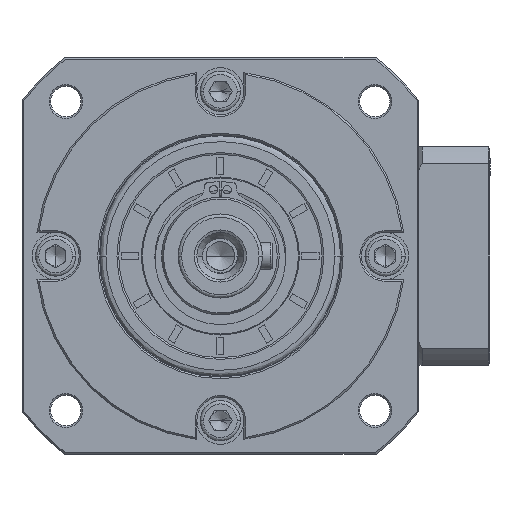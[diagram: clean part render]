
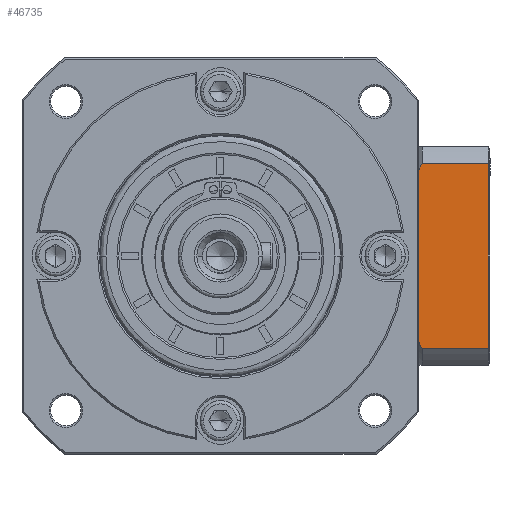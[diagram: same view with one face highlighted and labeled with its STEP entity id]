
A CAD part, left-side view. The second image highlights one B-rep face of the part: STEP entity #46735.
In plain terms, the highlighted planar face has unit normal (-1, 0, 0).
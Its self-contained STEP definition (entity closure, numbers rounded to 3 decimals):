
#159 = CARTESIAN_POINT ( 'NONE',  ( -18.303, -83.897, -95.251 ) ) ;
#456 = CARTESIAN_POINT ( 'NONE',  ( -18.303, -56.697, -135.627 ) ) ;
#694 = VERTEX_POINT ( 'NONE', #456 ) ;
#1664 = ORIENTED_EDGE ( 'NONE', *, *, #8853, .F. ) ;
#4312 = CARTESIAN_POINT ( 'NONE',  ( -18.303, -57.646, -138.184 ) ) ;
#4411 = LINE ( 'NONE', #144741, #111909 ) ;
#6166 = EDGE_CURVE ( 'NONE', #149247, #43673, #142944, .T. ) ;
#8853 = EDGE_CURVE ( 'NONE', #122564, #157267, #9783, .T. ) ;
#9768 = FACE_OUTER_BOUND ( 'NONE', #60372, .T. ) ;
#9783 = LINE ( 'NONE', #16123, #131947 ) ;
#11297 = DIRECTION ( 'NONE',  ( 0., -1., 0. ) ) ;
#16123 = CARTESIAN_POINT ( 'NONE',  ( -18.303, -83.897, -155.137 ) ) ;
#19016 = ORIENTED_EDGE ( 'NONE', *, *, #6166, .F. ) ;
#20881 = CARTESIAN_POINT ( 'NONE',  ( -18.303, -83.897, -150.023 ) ) ;
#21820 = VERTEX_POINT ( 'NONE', #148296 ) ;
#23563 = CARTESIAN_POINT ( 'NONE',  ( -18.303, -42.197, -135.627 ) ) ;
#25190 = ORIENTED_EDGE ( 'NONE', *, *, #46428, .F. ) ;
#30402 = EDGE_CURVE ( 'NONE', #43673, #21820, #45711, .T. ) ;
#34738 = EDGE_CURVE ( 'NONE', #694, #62710, #4411, .T. ) ;
#39700 = CARTESIAN_POINT ( 'NONE',  ( -18.303, -42.197, -109.647 ) ) ;
#41763 = DIRECTION ( 'NONE',  ( 0., 0., 1. ) ) ;
#42264 = DIRECTION ( 'NONE',  ( 0., -1., 0. ) ) ;
#43673 = VERTEX_POINT ( 'NONE', #164945 ) ;
#45711 = B_SPLINE_CURVE_WITH_KNOTS ( 'NONE', 3,
 ( #128550, #158771, #142083, #61387, #155658, #74922 ),
 .UNSPECIFIED., .F., .F.,
 ( 4, 2, 4 ),
 ( 0., 0.008, 0.016 ),
 .UNSPECIFIED. ) ;
#46428 = EDGE_CURVE ( 'NONE', #62710, #149247, #49745, .T. ) ;
#46735 = ADVANCED_FACE ( 'NONE', ( #9768 ), #78733, .F. ) ;
#49745 = LINE ( 'NONE', #149571, #77156 ) ;
#52207 = DIRECTION ( 'NONE',  ( 1., 0., 0. ) ) ;
#57884 = CARTESIAN_POINT ( 'NONE',  ( -18.303, -64.197, -150.023 ) ) ;
#60372 = EDGE_LOOP ( 'NONE', ( #1664, #153961, #131359, #19016, #25190, #115023, #97211, #161599 ) ) ;
#61387 = CARTESIAN_POINT ( 'NONE',  ( -18.303, -61.332, -99.86 ) ) ;
#62710 = VERTEX_POINT ( 'NONE', #23563 ) ;
#65156 = CARTESIAN_POINT ( 'NONE',  ( -18.303, -64.197, -150.023 ) ) ;
#71223 = EDGE_CURVE ( 'NONE', #157267, #140806, #130649, .T. ) ;
#74922 = CARTESIAN_POINT ( 'NONE',  ( -18.303, -64.197, -95.251 ) ) ;
#77156 = VECTOR ( 'NONE', #41763, 1000. ) ;
#78733 = PLANE ( 'NONE',  #139889 ) ;
#84997 = CARTESIAN_POINT ( 'NONE',  ( -18.303, -58.793, -140.636 ) ) ;
#91810 = EDGE_CURVE ( 'NONE', #140806, #694, #149971, .T. ) ;
#97211 = ORIENTED_EDGE ( 'NONE', *, *, #91810, .F. ) ;
#98502 = CARTESIAN_POINT ( 'NONE',  ( -18.303, -56.697, -135.627 ) ) ;
#102207 = EDGE_CURVE ( 'NONE', #21820, #122564, #134369, .T. ) ;
#105552 = CARTESIAN_POINT ( 'NONE',  ( -18.303, -84.397, -95.251 ) ) ;
#110005 = CARTESIAN_POINT ( 'NONE',  ( -18.303, -56.697, -109.647 ) ) ;
#111909 = VECTOR ( 'NONE', #158333, 1000. ) ;
#115023 = ORIENTED_EDGE ( 'NONE', *, *, #34738, .F. ) ;
#122564 = VERTEX_POINT ( 'NONE', #159 ) ;
#123905 = DIRECTION ( 'NONE',  ( 0., 0., -1. ) ) ;
#126419 = VECTOR ( 'NONE', #141799, 1000. ) ;
#128259 = CARTESIAN_POINT ( 'NONE',  ( -18.303, -84.397, -150.023 ) ) ;
#128550 = CARTESIAN_POINT ( 'NONE',  ( -18.303, -56.697, -109.647 ) ) ;
#130649 = LINE ( 'NONE', #128259, #126419 ) ;
#131359 = ORIENTED_EDGE ( 'NONE', *, *, #30402, .F. ) ;
#131947 = VECTOR ( 'NONE', #123905, 1000. ) ;
#132917 = CARTESIAN_POINT ( 'NONE',  ( -18.303, -84.397, -155.137 ) ) ;
#134369 = LINE ( 'NONE', #105552, #170229 ) ;
#138637 = CARTESIAN_POINT ( 'NONE',  ( -18.303, -62.725, -147.739 ) ) ;
#138717 = VECTOR ( 'NONE', #42264, 1000. ) ;
#139889 = AXIS2_PLACEMENT_3D ( 'NONE', #132917, #52207, #146464 ) ;
#140806 = VERTEX_POINT ( 'NONE', #65156 ) ;
#141799 = DIRECTION ( 'NONE',  ( 0., 1., 0. ) ) ;
#142083 = CARTESIAN_POINT ( 'NONE',  ( -18.303, -58.793, -104.638 ) ) ;
#142944 = LINE ( 'NONE', #110005, #138717 ) ;
#144741 = CARTESIAN_POINT ( 'NONE',  ( -18.303, -56.697, -135.627 ) ) ;
#146464 = DIRECTION ( 'NONE',  ( 0., 1., 0. ) ) ;
#148296 = CARTESIAN_POINT ( 'NONE',  ( -18.303, -64.197, -95.251 ) ) ;
#149247 = VERTEX_POINT ( 'NONE', #39700 ) ;
#149571 = CARTESIAN_POINT ( 'NONE',  ( -18.303, -42.197, -155.137 ) ) ;
#149971 = B_SPLINE_CURVE_WITH_KNOTS ( 'NONE', 3,
 ( #57884, #138637, #165743, #84997, #4312, #98502 ),
 .UNSPECIFIED., .F., .F.,
 ( 4, 2, 4 ),
 ( 0., 0.008, 0.016 ),
 .UNSPECIFIED. ) ;
#153961 = ORIENTED_EDGE ( 'NONE', *, *, #102207, .F. ) ;
#155658 = CARTESIAN_POINT ( 'NONE',  ( -18.303, -62.725, -97.535 ) ) ;
#157267 = VERTEX_POINT ( 'NONE', #20881 ) ;
#158333 = DIRECTION ( 'NONE',  ( 0., 1., 0. ) ) ;
#158771 = CARTESIAN_POINT ( 'NONE',  ( -18.303, -57.646, -107.09 ) ) ;
#161599 = ORIENTED_EDGE ( 'NONE', *, *, #71223, .F. ) ;
#164945 = CARTESIAN_POINT ( 'NONE',  ( -18.303, -56.697, -109.647 ) ) ;
#165743 = CARTESIAN_POINT ( 'NONE',  ( -18.303, -61.332, -145.415 ) ) ;
#170229 = VECTOR ( 'NONE', #11297, 1000. ) ;
